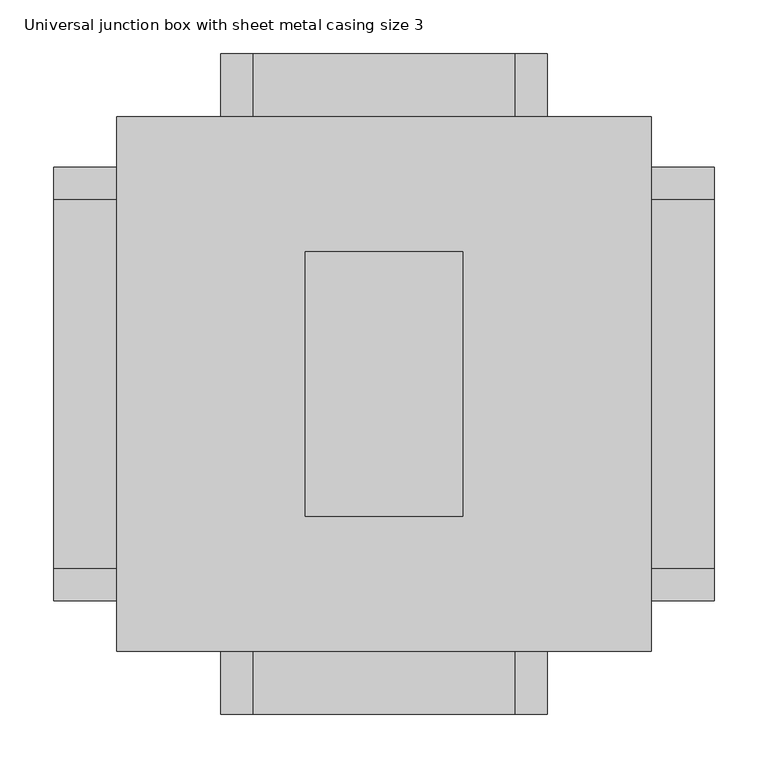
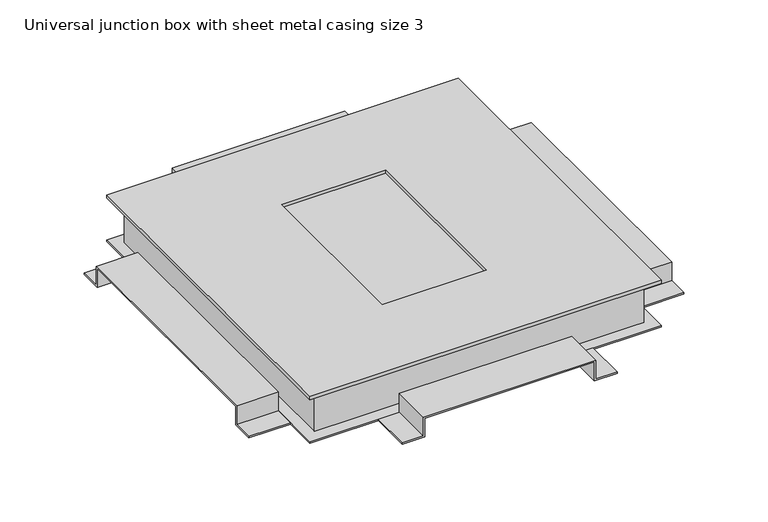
"""IFC4 building model written with IfcOpenShell, lengths in millimetres: cable carrier fitting geometry, Electrical-Installations_Hager_Universal-Junction-Box-With-Sheet-Metal-Casing-Size-3 : Universal junction box with sheet metal casing size 3."""

from ifc_helpers import new_model, si_unit, frame, origin, place, context, project, spatial, polyline, outline, extrude, faceted_brep, source, transform, mapped, element, save


def universal_junction_box_with_sheet_metal_casing_size_3_1634ce7a(model_context):
    return source(origin(), model_context, "Body", "SolidModel", [
        extrude(outline(polyline([(-14.0, -152.0), (-14.0, -120.0), (14.0, -120.0), (14.0, 120.0), (-14.0, 120.0), (-14.0, 152.0), (-12.0, 152.0), (-12.0, 122.0), (16.0, 122.0), (16.0, -122.0), (-12.0, -122.0), (-12.0, -152.0), (-14.0, -152.0)])), frame((0.0, 249.0, 0.0), z_axis=(0.0, 1.0, 0.0), x_axis=(0.0, 0.0, 1.0)), (0.0, 0.0, 1.0), 59.0),
        extrude(outline(polyline([(-202.0, -14.0), (-202.0, -12.0), (-172.0, -12.0), (-172.0, 16.0), (172.0, 16.0), (172.0, -12.0), (202.0, -12.0), (202.0, -14.0), (170.0, -14.0), (170.0, 14.0), (-170.0, 14.0), (-170.0, -14.0), (-202.0, -14.0)])), frame((-308.0, 0.0, 0.0), z_axis=(1.0, 0.0, 0.0), x_axis=(0.0, 1.0, 0.0)), (0.0, 0.0, 1.0), 59.0),
        extrude(outline(polyline([(-14.0, -152.0), (-14.0, -120.0), (14.0, -120.0), (14.0, 120.0), (-14.0, 120.0), (-14.0, 152.0), (-12.0, 152.0), (-12.0, 122.0), (16.0, 122.0), (16.0, -122.0), (-12.0, -122.0), (-12.0, -152.0), (-14.0, -152.0)])), frame((0.0, -308.0, 0.0), z_axis=(0.0, 1.0, 0.0), x_axis=(0.0, 0.0, 1.0)), (0.0, 0.0, 1.0), 59.0),
        extrude(outline(polyline([(-202.0, -14.0), (-202.0, -12.0), (-172.0, -12.0), (-172.0, 16.0), (172.0, 16.0), (172.0, -12.0), (202.0, -12.0), (202.0, -14.0), (170.0, -14.0), (170.0, 14.0), (-170.0, 14.0), (-170.0, -14.0), (-202.0, -14.0)])), frame((249.0, 0.0, 0.0), z_axis=(1.0, 0.0, 0.0), x_axis=(0.0, 1.0, 0.0)), (0.0, 0.0, 1.0), 59.0),
        faceted_brep([(-249.0, -249.0, 56.0), (249.0, -249.0, 56.0), (249.0, 249.0, 56.0), (-249.0, 249.0, 56.0), (-73.5, 123.5, 56.0), (73.5, 123.5, 56.0), (73.5, -123.5, 56.0), (-73.5, -123.5, 56.0), (-249.0, -249.0, 51.0), (-249.0, 249.0, 51.0), (249.0, 249.0, 51.0), (249.0, -249.0, 51.0), (227.0, 227.0, 51.0), (-227.0, 227.0, 51.0), (-227.0, -227.0, 51.0), (227.0, -227.0, 51.0), (-73.5, 123.5, 51.7820613), (73.5, 123.5, 51.7820613), (73.5, -123.5, 51.7820613), (-73.5, -123.5, 51.7820613), (227.0, 227.0, 51.7820613), (227.0, -227.0, 51.7820613), (-227.0, -227.0, 51.7820613), (-227.0, 227.0, 51.7820613)], [[[0, 1, 2, 3], [4, 5, 6, 7]], [[8, 9, 10, 11], [12, 13, 14, 15]], [[1, 0, 8, 11]], [[2, 1, 11, 10]], [[3, 2, 10, 9]], [[0, 3, 9, 8]], [[5, 4, 16, 17]], [[6, 5, 17, 18]], [[7, 6, 18, 19]], [[4, 7, 19, 16]], [[20, 21, 22, 23], [17, 16, 19, 18]], [[20, 23, 13, 12]], [[23, 22, 14, 13]], [[22, 21, 15, 14]], [[21, 20, 12, 15]]]),
        extrude(outline(polyline([(249.0, 249.0), (249.0, -249.0), (-249.0, -249.0), (-249.0, 249.0), (249.0, 249.0)])), frame((0.0, 0.0, -14.0), z_axis=(0.0, 0.0, 1.0), x_axis=(1.0, 0.0, 0.0)), (0.0, 0.0, 1.0), 2.0),
        faceted_brep([(-233.0, 233.0, 51.0), (-233.0, -233.0, 51.0), (233.0, -233.0, 51.0), (233.0, 233.0, 51.0), (-227.0, 227.0, 51.0), (227.0, 227.0, 51.0), (227.0, -227.0, 51.0), (-227.0, -227.0, 51.0), (-233.0, 233.0, -14.0), (233.0, 233.0, -14.0), (233.0, -233.0, -14.0), (-233.0, -233.0, -14.0), (227.0, 227.0, -6.1362798), (-227.0, 227.0, -6.1362798), (-227.0, -227.0, -6.1362798), (227.0, -227.0, -6.1362798)], [[[0, 1, 2, 3], [4, 5, 6, 7]], [[8, 9, 10, 11]], [[1, 0, 8, 11]], [[2, 1, 11, 10]], [[3, 2, 10, 9]], [[0, 3, 9, 8]], [[12, 13, 14, 15]], [[13, 12, 5, 4]], [[14, 13, 4, 7]], [[15, 14, 7, 6]], [[12, 15, 6, 5]]]),
    ])


if __name__ == "__main__":
    model = new_model("IFC4")
    model_context = context("Model", 3, world=origin())
    ifc_project = project(units=[si_unit("LENGTHUNIT", "METRE", prefix="MILLI")], contexts=[model_context])
    site = spatial("IfcSite", under=ifc_project)
    building = spatial("IfcBuilding", under=site)
    placement = place(None, origin())
    universal_junction_box_with_sheet_metal_casing_size_3_shape = universal_junction_box_with_sheet_metal_casing_size_3_1634ce7a(model_context)
    element("IfcCableCarrierFitting", 1, ObjectType="Electrical-Installations_Hager_Universal-Junction-Box-With-Sheet-Metal-Casing-Size-3 : Universal junction box with sheet metal casing size 3", at=placement, inside=building, context=model_context, shape_type="MappedRepresentation", body=[
        mapped(universal_junction_box_with_sheet_metal_casing_size_3_shape, transform((0.0, 0.0, 0.0), x_axis=(1.0, 0.0, 0.0), y_axis=(0.0, 1.0, 0.0), z_axis=(0.0, 0.0, 1.0))),
    ])
    save(model, "model.ifc")
